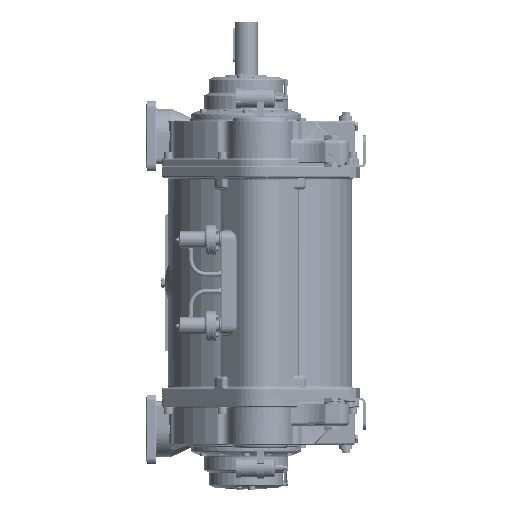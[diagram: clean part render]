
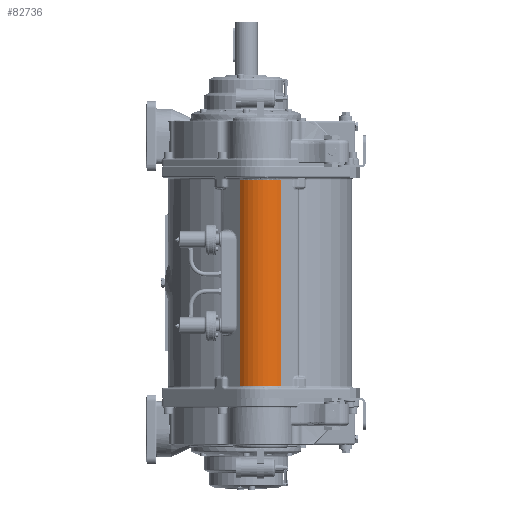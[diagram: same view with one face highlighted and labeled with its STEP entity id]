
A CAD part, left-side view. The second image highlights one B-rep face of the part: STEP entity #82736.
In plain terms, the highlighted cylindrical face has radius 77 mm (diameter 154 mm), a partial arc.
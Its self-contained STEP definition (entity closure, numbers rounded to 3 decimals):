
#7957=FACE_OUTER_BOUND('',#12909,.T.);
#12909=EDGE_LOOP('',(#55400,#55401,#55402,#55403));
#17937=LINE('',#120950,#23325);
#17947=LINE('',#121016,#23335);
#23325=VECTOR('',#96887,10.);
#23335=VECTOR('',#96911,10.);
#28745=CIRCLE('',#87791,77.);
#28807=CIRCLE('',#87899,77.);
#32853=VERTEX_POINT('',#120947);
#32854=VERTEX_POINT('',#120949);
#32872=VERTEX_POINT('',#121013);
#32873=VERTEX_POINT('',#121015);
#40902=EDGE_CURVE('',#32853,#32854,#17937,.T.);
#40922=EDGE_CURVE('',#32873,#32872,#17947,.T.);
#41024=EDGE_CURVE('',#32854,#32872,#28745,.T.);
#41136=EDGE_CURVE('',#32873,#32853,#28807,.T.);
#55400=ORIENTED_EDGE('',*,*,#41136,.F.);
#55401=ORIENTED_EDGE('',*,*,#40922,.T.);
#55402=ORIENTED_EDGE('',*,*,#41024,.F.);
#55403=ORIENTED_EDGE('',*,*,#40902,.F.);
#76290=CYLINDRICAL_SURFACE('',#88330,77.);
#82736=ADVANCED_FACE('',(#7957),#76290,.T.);
#87791=AXIS2_PLACEMENT_3D('',#121944,#97083,#97084);
#87899=AXIS2_PLACEMENT_3D('',#122427,#97332,#97333);
#88330=AXIS2_PLACEMENT_3D('',#125579,#98308,#98309);
#96887=DIRECTION('',(0.,0.,1.));
#96911=DIRECTION('',(0.,0.,1.));
#97083=DIRECTION('center_axis',(0.,0.,
1.));
#97084=DIRECTION('ref_axis',(-1.,0.,0.));
#97332=DIRECTION('center_axis',(0.,0.,
-1.));
#97333=DIRECTION('ref_axis',(-1.,0.,0.));
#98308=DIRECTION('center_axis',(0.,0.,
-1.));
#98309=DIRECTION('ref_axis',(-0.707,0.707,0.));
#120947=CARTESIAN_POINT('',(-299.445,54.449,37.));
#120949=CARTESIAN_POINT('',(-299.445,54.449,581.));
#120950=CARTESIAN_POINT('',(-299.445,54.449,0.));
#121013=CARTESIAN_POINT('',(-299.446,-54.445,581.));
#121015=CARTESIAN_POINT('',(-299.446,-54.445,37.));
#121016=CARTESIAN_POINT('',(-299.446,-54.445,0.));
#121944=CARTESIAN_POINT('Origin',(-244.998,0.001,
581.));
#122427=CARTESIAN_POINT('Origin',(-244.998,0.001,
37.));
#125579=CARTESIAN_POINT('Origin',(-244.998,0.001,
0.));
